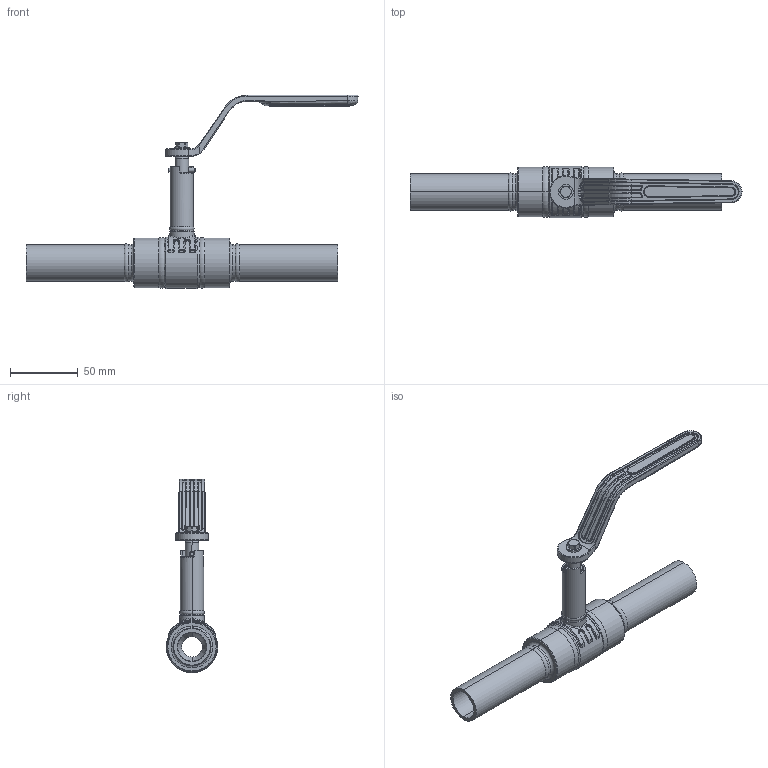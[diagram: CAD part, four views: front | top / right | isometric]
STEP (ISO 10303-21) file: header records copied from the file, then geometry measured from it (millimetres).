
FILE_DESCRIPTION((''),'2;1');
FILE_NAME('KHMO-S-R-H-020R015P04_SW0001','2022-10-18T15:41:07',('jeitlers'),('KLINGER'),'CREO PARAMETRIC BY PTC INC, 2020184','CREO PARAMETRIC BY PTC INC, 2020184','');
FILE_SCHEMA(('AUTOMOTIVE_DESIGN { 1 0 10303 214 1 1 1 1 }'));
Length unit declared in the file: millimetre
Products named in the file (1): KHMO-S-R-H-020R015P04_SW0001
Bounding box: 245 x 38 x 142.6 mm (x, y, z)
Volume: 120038.2 mm3; surface area: 60021.8 mm2
Topology: 1 solids, 1 shells, 637 faces, 1423 edges, 804 vertices
Faces by surface type: cylinder 199, bspline 158, torus 98, plane 97, cone 68, sphere 12, extrusion 5
Entity records: 40570 total; most frequent: CARTESIAN_POINT 26614, ORIENTED_EDGE 2834, DIRECTION 2653, EDGE_CURVE 1417, AXIS2_PLACEMENT_3D 1120, VERTEX_POINT 803, EDGE_LOOP 664, FACE_OUTER_BOUND 636
